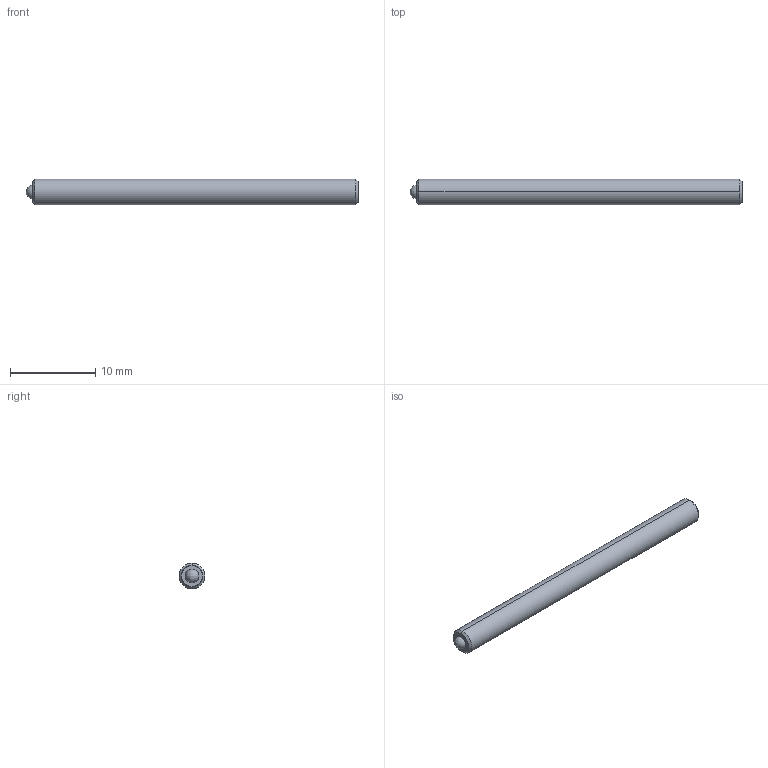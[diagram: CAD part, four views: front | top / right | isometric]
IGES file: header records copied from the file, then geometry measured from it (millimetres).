
Start section: SolidWorks IGES file using analytic representation for surfaces
Global section: file name: C:\Users\workpc\Desktop\KMA Solidworks\TS3-25 Series\TS3-25-39.IGS; native system: SolidWorks 2013; preprocessor: SolidWorks 2013; author: workpc; date: 130213.111628; units: millimetre
Bounding box: 38.99 x 3 x 3 mm (x, y, z)
Surface area: 393.6 mm2 (no closed solid volume)
Topology: 0 solids, 0 shells, 20 faces, 172 edges, 168 vertices
Faces by surface type: revolution 10, bspline 10
